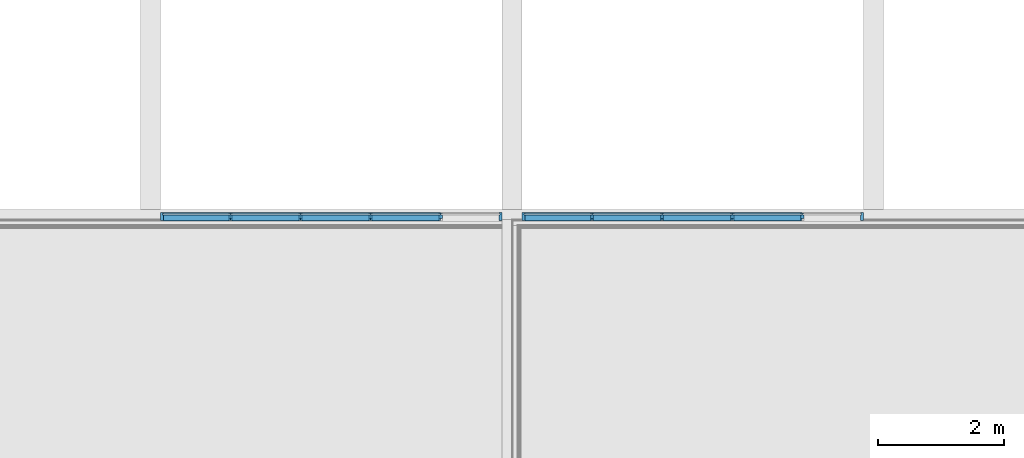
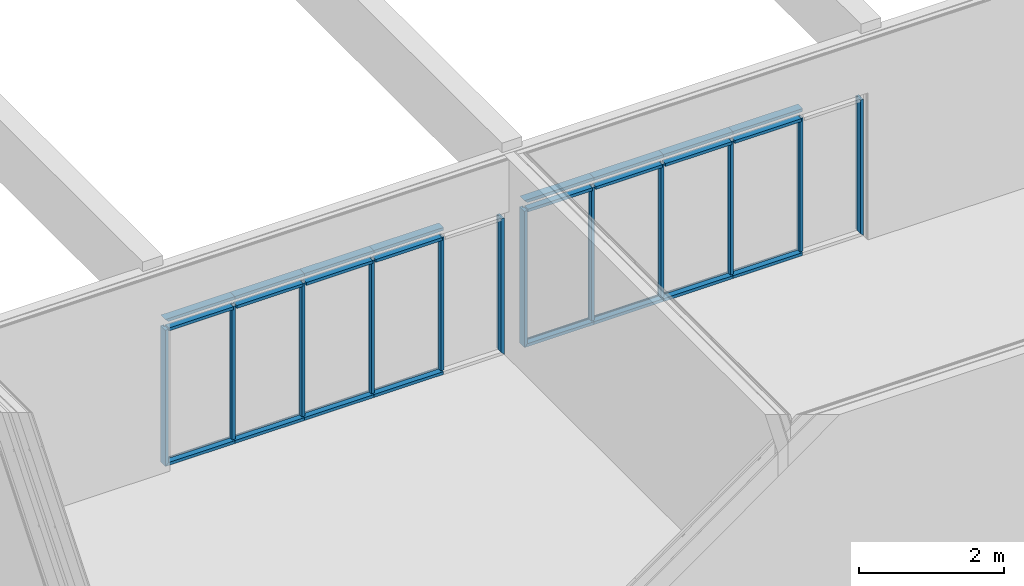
# One storey, part 12 of 139: 36 members, 2 elements without a shape of their own.
"""IFC2X3 building model written with IfcOpenShell, lengths in millimetres."""

from ifc_helpers import new_model, entity, si_unit, converted_unit, derived_unit, money_unit, direction, frame, origin_with_axes, place, context, subcontext, project, spatial, faceted_brep, source, transform, mapped, material, type_object, element, aggregate, save


model = new_model("IFC2X3")

# Units and contexts
model_context = context("Model", 3, precision=0.01, world=origin_with_axes(), true_north=direction((0.0, 1.0)))
body_context = subcontext(model_context, "Body", "Model", "MODEL_VIEW")
ifc_project = project(units=[si_unit("LENGTHUNIT", "METRE", prefix="MILLI"), si_unit("AREAUNIT", "SQUARE_METRE"), si_unit("VOLUMEUNIT", "CUBIC_METRE"), converted_unit("PLANEANGLEUNIT", "DEGREE", entity("IfcPlaneAngleMeasure", 0.0174532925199), si_unit("PLANEANGLEUNIT", "RADIAN"), dimensions=[0, 0, 0, 0, 0, 0, 0]), money_unit("EUR"), converted_unit("TIMEUNIT", "Year", entity("IfcTimeMeasure", 31556926.0), si_unit("TIMEUNIT", "SECOND"), dimensions=[0, 0, 1, 0, 0, 0, 0]), si_unit("MASSUNIT", "GRAM", prefix="KILO"), si_unit("THERMODYNAMICTEMPERATUREUNIT", "DEGREE_CELSIUS"), si_unit("LUMINOUSINTENSITYUNIT", "LUMEN"), si_unit("ENERGYUNIT", "JOULE", prefix="MEGA"), derived_unit("THERMALCONDUCTANCEUNIT", [(si_unit("POWERUNIT", "WATT"), 1), (si_unit("LENGTHUNIT", "METRE"), -1), (si_unit("THERMODYNAMICTEMPERATUREUNIT", "KELVIN"), -1)]), derived_unit("SPECIFICHEATCAPACITYUNIT", [(si_unit("ENERGYUNIT", "JOULE"), 1), (si_unit("MASSUNIT", "GRAM", prefix="KILO"), -1), (si_unit("THERMODYNAMICTEMPERATUREUNIT", "KELVIN"), -1)]), derived_unit("MASSDENSITYUNIT", [(si_unit("MASSUNIT", "GRAM", prefix="KILO"), 1), (si_unit("VOLUMEUNIT", "CUBIC_METRE"), -1)])], contexts=[model_context])

# Site, building, storey
site_placement = place(None, origin_with_axes())
site = spatial("IfcSite", under=ifc_project, at=site_placement, Name="Kolde pst 67a", CompositionType="ELEMENT")
building_placement = place(site_placement, origin_with_axes())
building = spatial("IfcBuilding", under=site, at=building_placement, Name="Riigigümnaasium", CompositionType="ELEMENT")
storey_placement = place(building_placement, frame((0.0, 0.0, 4600.0), z_axis=(0.0, 0.0, 1.0), x_axis=(1.0, 0.0, 0.0)))
storey = spatial("IfcBuildingStorey", under=building, at=storey_placement, Name="2. korrus", CompositionType="ELEMENT", Elevation=4600.0)

# Curtain wall, members
curtain_wall_type = type_object("IfcCurtainWallType", Name="Curtain Wall Type", PredefinedType="NOTDEFINED")
curtain_wall_1_placement = place(storey_placement, frame((16075.0009233, 67175.1339524, -0.000749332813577), z_axis=(0.0, 0.0, 1.0), x_axis=(1.0, 0.0, 0.0)))
curtain_wall_1 = element("IfcCurtainWall", 1, at=curtain_wall_1_placement, inside=storey, type_object=curtain_wall_type, Name="KLAASSEIN")
ifc_material_1 = material(Name="_METALL - alumiinium")
member_type_1 = type_object("IfcMemberType", Name="Boundary Frame 50 x 130", PredefinedType="MEMBER")
shared_shape_1 = source(origin_with_axes(), body_context, "Body", "Brep", [
    faceted_brep([(-30.0, -10.0, 1110.0), (-50.0, -10.0, 1110.0), (-50.0, -100.0, 1110.0), (0.0, -100.0, 1110.0), (0.0, 30.0, 1110.0), (-50.0, 30.0, 1110.0), (-50.0, 10.0, 1110.0), (-30.0, 10.0, 1110.0), (-30.0, -10.0, 0.0), (-50.0, -10.0, 0.0), (-50.0, -100.0, 0.0), (0.0, -100.0, 0.0), (0.0, 30.0, 0.0), (-50.0, 30.0, 0.0), (-50.0, 10.0, 0.0), (-30.0, 10.0, 0.0)], [[[0, 1, 2, 3, 4, 5, 6, 7]], [[0, 8, 9, 1]], [[9, 10, 2, 1]], [[10, 11, 3, 2]], [[11, 12, 4, 3]], [[12, 13, 5, 4]], [[6, 5, 13, 14]], [[14, 15, 7, 6]], [[7, 15, 8, 0]], [[8, 15, 14, 13, 12, 11, 10, 9]]]),
])
member_1_placement = place(curtain_wall_1_placement, frame((554.999999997, -0.0016739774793, 0.0), z_axis=(0.999999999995, -3.01617563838e-06, 0.0), x_axis=(0.0, 0.0, 1.0)))
member_1 = element("IfcMember", 2, at=member_1_placement, type_object=member_type_1, material=ifc_material_1, Name="RF RAAM SERV-069", ObjectType="MEMBER", context=body_context, shape_type="MappedRepresentation", body=[
    mapped(shared_shape_1, transform((0.0, 0.0, 0.0), x_axis=(-1.0, 0.0, 0.0), y_axis=(0.0, -1.0, 0.0), z_axis=(0.0, 0.0, 1.0))),
])
member_2_placement = place(curtain_wall_1_placement, frame((1664.99999999, -0.0050219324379, 0.0), z_axis=(0.999999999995, -3.01617565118e-06, 0.0), x_axis=(0.0, 0.0, 1.0)))
member_2 = element("IfcMember", 3, at=member_2_placement, type_object=member_type_1, material=ifc_material_1, Name="RF RAAM SERV-070", ObjectType="MEMBER", context=body_context, shape_type="MappedRepresentation", body=[
    mapped(shared_shape_1, transform((0.0, 0.0, 0.0), x_axis=(-1.0, 0.0, 0.0), y_axis=(0.0, -1.0, 0.0), z_axis=(0.0, 0.0, 1.0))),
])
member_3_placement = place(curtain_wall_1_placement, frame((2774.99999999, -0.00836988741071, 0.0), z_axis=(0.999999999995, -3.01617563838e-06, 0.0), x_axis=(0.0, 0.0, 1.0)))
member_3 = element("IfcMember", 4, at=member_3_placement, type_object=member_type_1, material=ifc_material_1, Name="RF RAAM SERV-071", ObjectType="MEMBER", context=body_context, shape_type="MappedRepresentation", body=[
    mapped(shared_shape_1, transform((0.0, 0.0, 0.0), x_axis=(-1.0, 0.0, 0.0), y_axis=(0.0, -1.0, 0.0), z_axis=(0.0, 0.0, 1.0))),
])
member_4_placement = place(curtain_wall_1_placement, frame((1664.99999999, -0.0050219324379, 2480.00001875), z_axis=(-0.999999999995, 3.01617563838e-06, 0.0), x_axis=(0.0, 0.0, -1.0)))
member_4 = element("IfcMember", 5, at=member_4_placement, type_object=member_type_1, material=ifc_material_1, Name="RF RAAM SERV-078", ObjectType="MEMBER", context=body_context, shape_type="MappedRepresentation", body=[
    mapped(shared_shape_1, transform((0.0, 0.0, 0.0), x_axis=(-1.0, 0.0, 0.0), y_axis=(0.0, -1.0, 0.0), z_axis=(0.0, 0.0, 1.0))),
])
member_5_placement = place(curtain_wall_1_placement, frame((2774.99999999, -0.00836988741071, 2480.00001875), z_axis=(-0.999999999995, 3.01617565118e-06, 0.0), x_axis=(0.0, 0.0, -1.0)))
member_5 = element("IfcMember", 6, at=member_5_placement, type_object=member_type_1, material=ifc_material_1, Name="RF RAAM SERV-077", ObjectType="MEMBER", context=body_context, shape_type="MappedRepresentation", body=[
    mapped(shared_shape_1, transform((0.0, 0.0, 0.0), x_axis=(-1.0, 0.0, 0.0), y_axis=(0.0, -1.0, 0.0), z_axis=(0.0, 0.0, 1.0))),
])
member_6_placement = place(curtain_wall_1_placement, frame((3884.99999998, -0.0117178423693, 2480.00001875), z_axis=(-0.999999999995, 3.01617563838e-06, 0.0), x_axis=(0.0, 0.0, -1.0)))
member_6 = element("IfcMember", 7, at=member_6_placement, type_object=member_type_1, material=ifc_material_1, Name="RF RAAM SERV-076", ObjectType="MEMBER", context=body_context, shape_type="MappedRepresentation", body=[
    mapped(shared_shape_1, transform((0.0, 0.0, 0.0), x_axis=(-1.0, 0.0, 0.0), y_axis=(0.0, -1.0, 0.0), z_axis=(0.0, 0.0, 1.0))),
])

curtain_wall_2_placement = place(storey_placement, frame((10344.9992917, 67175.1512351, -0.000749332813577), z_axis=(0.0, 0.0, 1.0), x_axis=(1.0, 0.0, 0.0)))
curtain_wall_2 = element("IfcCurtainWall", 8, at=curtain_wall_2_placement, inside=storey, type_object=curtain_wall_type, Name="KLAASSEIN")
member_7_placement = place(curtain_wall_2_placement, frame((554.999999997, -0.0016739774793, 0.0), z_axis=(0.999999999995, -3.01617563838e-06, 0.0), x_axis=(0.0, 0.0, 1.0)))
member_7 = element("IfcMember", 9, at=member_7_placement, type_object=member_type_1, material=ifc_material_1, Name="RF RAAM SERV-069", ObjectType="MEMBER", context=body_context, shape_type="MappedRepresentation", body=[
    mapped(shared_shape_1, transform((0.0, 0.0, 0.0), x_axis=(-1.0, 0.0, 0.0), y_axis=(0.0, -1.0, 0.0), z_axis=(0.0, 0.0, 1.0))),
])
member_8_placement = place(curtain_wall_2_placement, frame((1664.99999999, -0.0050219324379, 0.0), z_axis=(0.999999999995, -3.01617565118e-06, 0.0), x_axis=(0.0, 0.0, 1.0)))
member_8 = element("IfcMember", 10, at=member_8_placement, type_object=member_type_1, material=ifc_material_1, Name="RF RAAM SERV-070", ObjectType="MEMBER", context=body_context, shape_type="MappedRepresentation", body=[
    mapped(shared_shape_1, transform((0.0, 0.0, 0.0), x_axis=(-1.0, 0.0, 0.0), y_axis=(0.0, -1.0, 0.0), z_axis=(0.0, 0.0, 1.0))),
])
member_9_placement = place(curtain_wall_2_placement, frame((2774.99999999, -0.00836988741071, 0.0), z_axis=(0.999999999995, -3.01617563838e-06, 0.0), x_axis=(0.0, 0.0, 1.0)))
member_9 = element("IfcMember", 11, at=member_9_placement, type_object=member_type_1, material=ifc_material_1, Name="RF RAAM SERV-071", ObjectType="MEMBER", context=body_context, shape_type="MappedRepresentation", body=[
    mapped(shared_shape_1, transform((0.0, 0.0, 0.0), x_axis=(-1.0, 0.0, 0.0), y_axis=(0.0, -1.0, 0.0), z_axis=(0.0, 0.0, 1.0))),
])
member_10_placement = place(curtain_wall_2_placement, frame((2774.99999999, -0.00836988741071, 2480.00001875), z_axis=(-0.999999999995, 3.01617565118e-06, 0.0), x_axis=(0.0, 0.0, -1.0)))
member_10 = element("IfcMember", 12, at=member_10_placement, type_object=member_type_1, material=ifc_material_1, Name="RF RAAM SERV-077", ObjectType="MEMBER", context=body_context, shape_type="MappedRepresentation", body=[
    mapped(shared_shape_1, transform((0.0, 0.0, 0.0), x_axis=(-1.0, 0.0, 0.0), y_axis=(0.0, -1.0, 0.0), z_axis=(0.0, 0.0, 1.0))),
])
member_11_placement = place(curtain_wall_2_placement, frame((3884.99999998, -0.0117178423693, 2480.00001875), z_axis=(-0.999999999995, 3.01617563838e-06, 0.0), x_axis=(0.0, 0.0, -1.0)))
member_11 = element("IfcMember", 13, at=member_11_placement, type_object=member_type_1, material=ifc_material_1, Name="RF RAAM SERV-076", ObjectType="MEMBER", context=body_context, shape_type="MappedRepresentation", body=[
    mapped(shared_shape_1, transform((0.0, 0.0, 0.0), x_axis=(-1.0, 0.0, 0.0), y_axis=(0.0, -1.0, 0.0), z_axis=(0.0, 0.0, 1.0))),
])
member_12_placement = place(curtain_wall_2_placement, frame((1664.99999999, -0.0050219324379, 2480.00001875), z_axis=(-0.999999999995, 3.01617563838e-06, 0.0), x_axis=(0.0, 0.0, -1.0)))
member_12 = element("IfcMember", 14, at=member_12_placement, type_object=member_type_1, material=ifc_material_1, Name="RF RAAM SERV-078", ObjectType="MEMBER", context=body_context, shape_type="MappedRepresentation", body=[
    mapped(shared_shape_1, transform((0.0, 0.0, 0.0), x_axis=(-1.0, 0.0, 0.0), y_axis=(0.0, -1.0, 0.0), z_axis=(0.0, 0.0, 1.0))),
])

# Member
shared_shape_2 = source(origin_with_axes(), body_context, "Body", "Brep", [
    faceted_brep([(-30.0, -10.0, 1110.0), (-50.0, -10.0, 1110.0), (-50.0, -100.0, 1110.0), (0.0, -100.0, 1110.0), (0.0, 30.0, 1110.0), (-50.0, 30.0, 1110.0), (-50.0, 10.0, 1110.0), (-30.0, 10.0, 1110.0), (-30.0, -10.0, 30.0), (-50.0, -10.0, 50.0), (-50.0, -100.0, 50.0), (0.0, -100.0, 0.0), (0.0, 30.0, 0.0), (-50.0, 30.0, 50.0), (-50.0, 10.0, 50.0), (-30.0, 10.0, 30.0)], [[[0, 1, 2, 3, 4, 5, 6, 7]], [[0, 8, 9, 1]], [[9, 10, 2, 1]], [[2, 10, 11, 3]], [[3, 11, 12, 4]], [[4, 12, 13, 5]], [[6, 5, 13, 14]], [[14, 15, 7, 6]], [[7, 15, 8, 0]], [[8, 15, 14, 13, 12, 11, 10, 9]]]),
])
member_13_placement = place(curtain_wall_1_placement, frame((-554.999999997, 0.0016739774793, 0.0), z_axis=(0.999999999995, -3.01617563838e-06, 0.0), x_axis=(0.0, 0.0, 1.0)))
member_13 = element("IfcMember", 15, at=member_13_placement, type_object=member_type_1, material=ifc_material_1, Name="RF RAAM SERV-068", ObjectType="MEMBER", context=body_context, shape_type="MappedRepresentation", body=[
    mapped(shared_shape_2, transform((0.0, 0.0, 0.0), x_axis=(-1.0, 0.0, 0.0), y_axis=(0.0, -1.0, 0.0), z_axis=(0.0, 0.0, 1.0))),
])

member_14_placement = place(curtain_wall_2_placement, frame((-554.999999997, 0.0016739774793, 0.0), z_axis=(0.999999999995, -3.01617563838e-06, 0.0), x_axis=(0.0, 0.0, 1.0)))
member_14 = element("IfcMember", 16, at=member_14_placement, type_object=member_type_1, material=ifc_material_1, Name="RF RAAM SERV-068", ObjectType="MEMBER", context=body_context, shape_type="MappedRepresentation", body=[
    mapped(shared_shape_2, transform((0.0, 0.0, 0.0), x_axis=(-1.0, 0.0, 0.0), y_axis=(0.0, -1.0, 0.0), z_axis=(0.0, 0.0, 1.0))),
])

ifc_material_2 = material(Name="_GENEERILINE MATERJAL")
member_type_2 = type_object("IfcMemberType", Name="Transom Frame 50 x 100", PredefinedType="MEMBER")
shared_shape_3 = source(origin_with_axes(), body_context, "Body", "Brep", [
    faceted_brep([(-25.0, -10.0, 50.0), (-25.0, -110.0, 50.0), (-25.0, -110.0, 1085.0), (-25.0, -10.0, 1085.0), (25.0, -10.0, 50.0), (25.0, -110.0, 50.0), (25.0, -110.0, 1085.0), (25.0, -10.0, 1085.0)], [[[0, 1, 2, 3]], [[1, 0, 4, 5]], [[1, 5, 6, 2]], [[2, 6, 7, 3]], [[4, 0, 3, 7]], [[5, 4, 7, 6]]]),
])
member_15_placement = place(curtain_wall_1_placement, frame((-554.999999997, 0.0016739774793, 2300.0), z_axis=(0.999999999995, -3.01617563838e-06, 0.0), x_axis=(0.0, 0.0, 1.0)))
member_15 = element("IfcMember", 17, at=member_15_placement, type_object=member_type_2, material=ifc_material_2, Name="RF RAAM HOR-389", ObjectType="MEMBER", context=body_context, shape_type="MappedRepresentation", body=[
    mapped(shared_shape_3, transform((0.0, 0.0, 0.0), x_axis=(-1.0, 0.0, 0.0), y_axis=(0.0, -1.0, 0.0), z_axis=(0.0, 0.0, 1.0))),
])

member_16_placement = place(curtain_wall_2_placement, frame((-554.999999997, 0.0016739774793, 2300.0), z_axis=(0.999999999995, -3.01617563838e-06, 0.0), x_axis=(0.0, 0.0, 1.0)))
member_16 = element("IfcMember", 18, at=member_16_placement, type_object=member_type_2, material=ifc_material_2, Name="RF RAAM HOR-389", ObjectType="MEMBER", context=body_context, shape_type="MappedRepresentation", body=[
    mapped(shared_shape_3, transform((0.0, 0.0, 0.0), x_axis=(-1.0, 0.0, 0.0), y_axis=(0.0, -1.0, 0.0), z_axis=(0.0, 0.0, 1.0))),
])

shared_shape_4 = source(origin_with_axes(), body_context, "Body", "Brep", [
    faceted_brep([(30.0, -10.0, 2300.00012785), (30.0, 10.0, 2300.00012785), (50.0, 10.0, 2300.00012785), (50.0, 30.0, 2300.00012785), (0.0, 30.0, 2300.00012785), (0.0, -100.0, 2300.00012785), (50.0, -100.0, 2300.00012785), (50.0, -10.0, 2300.00012785), (30.0, -10.0, 30.0), (30.0, 10.0, 30.0), (50.0, 10.0, 50.0), (50.0, 30.0, 50.0), (0.0, 30.0, 0.0), (0.0, -100.0, 0.0), (50.0, -100.0, 50.0), (50.0, -10.0, 50.0)], [[[0, 1, 2, 3, 4, 5, 6, 7]], [[1, 0, 8, 9]], [[10, 2, 1, 9]], [[2, 10, 11, 3]], [[4, 3, 11, 12]], [[5, 4, 12, 13]], [[6, 5, 13, 14]], [[15, 7, 6, 14]], [[0, 7, 15, 8]], [[8, 15, 14, 13, 12, 11, 10, 9]]]),
])
member_17_placement = place(curtain_wall_1_placement, frame((-554.999999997, 0.0016739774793, 0.0), z_axis=(0.0, 0.0, 1.0), x_axis=(-0.999999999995, 3.01617563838e-06, 0.0)))
member_17 = element("IfcMember", 19, at=member_17_placement, type_object=member_type_1, material=ifc_material_1, Name="RF RAAM SERV-081", ObjectType="MEMBER", context=body_context, shape_type="MappedRepresentation", body=[
    mapped(shared_shape_4, transform((0.0, 0.0, 0.0), x_axis=(-1.0, 0.0, 0.0), y_axis=(0.0, -1.0, 0.0), z_axis=(0.0, 0.0, 1.0))),
])

member_18_placement = place(curtain_wall_2_placement, frame((-554.999999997, 0.0016739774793, 0.0), z_axis=(0.0, 0.0, 1.0), x_axis=(-0.999999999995, 3.01617563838e-06, 0.0)))
member_18 = element("IfcMember", 20, at=member_18_placement, type_object=member_type_1, material=ifc_material_1, Name="RF RAAM SERV-081", ObjectType="MEMBER", context=body_context, shape_type="MappedRepresentation", body=[
    mapped(shared_shape_4, transform((0.0, 0.0, 0.0), x_axis=(-1.0, 0.0, 0.0), y_axis=(0.0, -1.0, 0.0), z_axis=(0.0, 0.0, 1.0))),
])

shared_shape_5 = source(origin_with_axes(), body_context, "Body", "Brep", [
    faceted_brep([(-25.0, -10.0, 25.0), (-25.0, -110.0, 25.0), (-25.0, -110.0, 1085.0), (-25.0, -10.0, 1085.0), (25.0, -10.0, 25.0), (25.0, -110.0, 25.0), (25.0, -110.0, 1085.0), (25.0, -10.0, 1085.0)], [[[0, 1, 2, 3]], [[1, 0, 4, 5]], [[1, 5, 6, 2]], [[2, 6, 7, 3]], [[4, 0, 3, 7]], [[5, 4, 7, 6]]]),
])
member_19_placement = place(curtain_wall_1_placement, frame((554.999999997, -0.0016739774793, 2300.0), z_axis=(0.999999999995, -3.01617563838e-06, 0.0), x_axis=(0.0, 0.0, 1.0)))
member_19 = element("IfcMember", 21, at=member_19_placement, type_object=member_type_2, material=ifc_material_2, Name="RF RAAM HOR-388", ObjectType="MEMBER", context=body_context, shape_type="MappedRepresentation", body=[
    mapped(shared_shape_5, transform((0.0, 0.0, 0.0), x_axis=(-1.0, 0.0, 0.0), y_axis=(0.0, -1.0, 0.0), z_axis=(0.0, 0.0, 1.0))),
])

member_20_placement = place(curtain_wall_1_placement, frame((1664.99999999, -0.0050219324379, 2300.0), z_axis=(0.999999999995, -3.01617565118e-06, 0.0), x_axis=(0.0, 0.0, 1.0)))
member_20 = element("IfcMember", 22, at=member_20_placement, type_object=member_type_2, material=ifc_material_2, Name="RF RAAM HOR-387", ObjectType="MEMBER", context=body_context, shape_type="MappedRepresentation", body=[
    mapped(shared_shape_5, transform((0.0, 0.0, 0.0), x_axis=(-1.0, 0.0, 0.0), y_axis=(0.0, -1.0, 0.0), z_axis=(0.0, 0.0, 1.0))),
])

member_21_placement = place(curtain_wall_1_placement, frame((2774.99999999, -0.00836988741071, 2300.0), z_axis=(0.999999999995, -3.01617563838e-06, 0.0), x_axis=(0.0, 0.0, 1.0)))
member_21 = element("IfcMember", 23, at=member_21_placement, type_object=member_type_2, material=ifc_material_2, Name="RF RAAM HOR-386", ObjectType="MEMBER", context=body_context, shape_type="MappedRepresentation", body=[
    mapped(shared_shape_5, transform((0.0, 0.0, 0.0), x_axis=(-1.0, 0.0, 0.0), y_axis=(0.0, -1.0, 0.0), z_axis=(0.0, 0.0, 1.0))),
])

member_22_placement = place(curtain_wall_2_placement, frame((554.999999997, -0.0016739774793, 2300.0), z_axis=(0.999999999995, -3.01617563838e-06, 0.0), x_axis=(0.0, 0.0, 1.0)))
member_22 = element("IfcMember", 24, at=member_22_placement, type_object=member_type_2, material=ifc_material_2, Name="RF RAAM HOR-388", ObjectType="MEMBER", context=body_context, shape_type="MappedRepresentation", body=[
    mapped(shared_shape_5, transform((0.0, 0.0, 0.0), x_axis=(-1.0, 0.0, 0.0), y_axis=(0.0, -1.0, 0.0), z_axis=(0.0, 0.0, 1.0))),
])

member_23_placement = place(curtain_wall_2_placement, frame((1664.99999999, -0.0050219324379, 2300.0), z_axis=(0.999999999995, -3.01617565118e-06, 0.0), x_axis=(0.0, 0.0, 1.0)))
member_23 = element("IfcMember", 25, at=member_23_placement, type_object=member_type_2, material=ifc_material_2, Name="RF RAAM HOR-387", ObjectType="MEMBER", context=body_context, shape_type="MappedRepresentation", body=[
    mapped(shared_shape_5, transform((0.0, 0.0, 0.0), x_axis=(-1.0, 0.0, 0.0), y_axis=(0.0, -1.0, 0.0), z_axis=(0.0, 0.0, 1.0))),
])

member_24_placement = place(curtain_wall_2_placement, frame((2774.99999999, -0.00836988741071, 2300.0), z_axis=(0.999999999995, -3.01617563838e-06, 0.0), x_axis=(0.0, 0.0, 1.0)))
member_24 = element("IfcMember", 26, at=member_24_placement, type_object=member_type_2, material=ifc_material_2, Name="RF RAAM HOR-386", ObjectType="MEMBER", context=body_context, shape_type="MappedRepresentation", body=[
    mapped(shared_shape_5, transform((0.0, 0.0, 0.0), x_axis=(-1.0, 0.0, 0.0), y_axis=(0.0, -1.0, 0.0), z_axis=(0.0, 0.0, 1.0))),
])

member_type_3 = type_object("IfcMemberType", Name="Mullion Frame 50 x 90", PredefinedType="MEMBER")
shared_shape_6 = source(origin_with_axes(), body_context, "Body", "Brep", [
    faceted_brep([(5.0, -10.0, 2300.00012785), (5.0, 10.0, 2300.00012785), (25.0, 10.0, 2300.00012785), (25.0, 20.0, 2300.00012785), (-25.0, 20.0, 2300.00012785), (-25.0, 10.0, 2300.00012785), (-5.0, 10.0, 2300.00012785), (-5.0, -10.0, 2300.00012785), (-25.0, -10.0, 2300.00012785), (-25.0, -70.0, 2300.00012785), (25.0, -70.0, 2300.00012785), (25.0, -10.0, 2300.00012785), (5.0, -10.0, 50.0), (5.0, 10.0, 50.0), (25.0, 10.0, 50.0), (25.0, 20.0, 50.0), (-25.0, 20.0, 50.0), (-25.0, 10.0, 50.0), (-5.0, 10.0, 50.0), (-5.0, -10.0, 50.0), (-25.0, -10.0, 50.0), (-25.0, -70.0, 50.0), (25.0, -70.0, 50.0), (25.0, -10.0, 50.0)], [[[0, 1, 2, 3, 4, 5, 6, 7, 8, 9, 10, 11]], [[0, 12, 13, 1]], [[1, 13, 14, 2]], [[14, 15, 3, 2]], [[4, 3, 15, 16]], [[17, 5, 4, 16]], [[5, 17, 18, 6]], [[7, 6, 18, 19]], [[8, 7, 19, 20]], [[8, 20, 21, 9]], [[10, 9, 21, 22]], [[11, 10, 22, 23]], [[11, 23, 12, 0]], [[13, 12, 23, 22, 21, 20, 19, 18, 17, 16, 15, 14]]]),
])
member_25_placement = place(curtain_wall_1_placement, frame((554.999999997, -0.0016739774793, 0.0), z_axis=(0.0, 0.0, 1.0), x_axis=(-0.999999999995, 3.01617563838e-06, 0.0)))
member_25 = element("IfcMember", 27, at=member_25_placement, type_object=member_type_3, material=ifc_material_1, Name="RF RAAM VERT-321", ObjectType="MEMBER", context=body_context, shape_type="MappedRepresentation", body=[
    mapped(shared_shape_6, transform((0.0, 0.0, 0.0), x_axis=(-1.0, 0.0, 0.0), y_axis=(0.0, -1.0, 0.0), z_axis=(0.0, 0.0, 1.0))),
])

member_26_placement = place(curtain_wall_1_placement, frame((1664.99999999, -0.0050219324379, 0.0), z_axis=(0.0, 0.0, 1.0), x_axis=(-0.999999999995, 3.01617564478e-06, 0.0)))
member_26 = element("IfcMember", 28, at=member_26_placement, type_object=member_type_3, material=ifc_material_1, Name="RF RAAM VERT-322", ObjectType="MEMBER", context=body_context, shape_type="MappedRepresentation", body=[
    mapped(shared_shape_6, transform((0.0, 0.0, 0.0), x_axis=(-1.0, 0.0, 0.0), y_axis=(0.0, -1.0, 0.0), z_axis=(0.0, 0.0, 1.0))),
])

member_27_placement = place(curtain_wall_1_placement, frame((2774.99999999, -0.00836988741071, 0.0), z_axis=(0.0, 0.0, 1.0), x_axis=(-0.999999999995, 3.01617564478e-06, 0.0)))
member_27 = element("IfcMember", 29, at=member_27_placement, type_object=member_type_3, material=ifc_material_1, Name="RF RAAM VERT-323", ObjectType="MEMBER", context=body_context, shape_type="MappedRepresentation", body=[
    mapped(shared_shape_6, transform((0.0, 0.0, 0.0), x_axis=(-1.0, 0.0, 0.0), y_axis=(0.0, -1.0, 0.0), z_axis=(0.0, 0.0, 1.0))),
])

member_28_placement = place(curtain_wall_1_placement, frame((3884.99999998, -0.0117178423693, 0.0), z_axis=(0.0, 0.0, 1.0), x_axis=(-0.999999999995, 3.01617563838e-06, 0.0)))
member_28 = element("IfcMember", 30, at=member_28_placement, type_object=member_type_3, material=ifc_material_1, Name="RF RAAM VERT-324", ObjectType="MEMBER", context=body_context, shape_type="MappedRepresentation", body=[
    mapped(shared_shape_6, transform((0.0, 0.0, 0.0), x_axis=(-1.0, 0.0, 0.0), y_axis=(0.0, -1.0, 0.0), z_axis=(0.0, 0.0, 1.0))),
])

member_29_placement = place(curtain_wall_2_placement, frame((554.999999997, -0.0016739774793, 0.0), z_axis=(0.0, 0.0, 1.0), x_axis=(-0.999999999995, 3.01617563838e-06, 0.0)))
member_29 = element("IfcMember", 31, at=member_29_placement, type_object=member_type_3, material=ifc_material_1, Name="RF RAAM VERT-321", ObjectType="MEMBER", context=body_context, shape_type="MappedRepresentation", body=[
    mapped(shared_shape_6, transform((0.0, 0.0, 0.0), x_axis=(-1.0, 0.0, 0.0), y_axis=(0.0, -1.0, 0.0), z_axis=(0.0, 0.0, 1.0))),
])

member_30_placement = place(curtain_wall_2_placement, frame((1664.99999999, -0.0050219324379, 0.0), z_axis=(0.0, 0.0, 1.0), x_axis=(-0.999999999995, 3.01617564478e-06, 0.0)))
member_30 = element("IfcMember", 32, at=member_30_placement, type_object=member_type_3, material=ifc_material_1, Name="RF RAAM VERT-322", ObjectType="MEMBER", context=body_context, shape_type="MappedRepresentation", body=[
    mapped(shared_shape_6, transform((0.0, 0.0, 0.0), x_axis=(-1.0, 0.0, 0.0), y_axis=(0.0, -1.0, 0.0), z_axis=(0.0, 0.0, 1.0))),
])

member_31_placement = place(curtain_wall_2_placement, frame((2774.99999999, -0.00836988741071, 0.0), z_axis=(0.0, 0.0, 1.0), x_axis=(-0.999999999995, 3.01617564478e-06, 0.0)))
member_31 = element("IfcMember", 33, at=member_31_placement, type_object=member_type_3, material=ifc_material_1, Name="RF RAAM VERT-323", ObjectType="MEMBER", context=body_context, shape_type="MappedRepresentation", body=[
    mapped(shared_shape_6, transform((0.0, 0.0, 0.0), x_axis=(-1.0, 0.0, 0.0), y_axis=(0.0, -1.0, 0.0), z_axis=(0.0, 0.0, 1.0))),
])

member_32_placement = place(curtain_wall_2_placement, frame((3884.99999998, -0.0117178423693, 0.0), z_axis=(0.0, 0.0, 1.0), x_axis=(-0.999999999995, 3.01617563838e-06, 0.0)))
member_32 = element("IfcMember", 34, at=member_32_placement, type_object=member_type_3, material=ifc_material_1, Name="RF RAAM VERT-324", ObjectType="MEMBER", context=body_context, shape_type="MappedRepresentation", body=[
    mapped(shared_shape_6, transform((0.0, 0.0, 0.0), x_axis=(-1.0, 0.0, 0.0), y_axis=(0.0, -1.0, 0.0), z_axis=(0.0, 0.0, 1.0))),
])

shared_shape_7 = source(origin_with_axes(), body_context, "Body", "Brep", [
    faceted_brep([(-30.0, -10.0, 2300.00012785), (-50.0, -10.0, 2300.00012785), (-50.0, -100.0, 2300.00012785), (0.0, -100.0, 2300.00012785), (0.0, 30.0, 2300.00012785), (-50.0, 30.0, 2300.00012785), (-50.0, 10.0, 2300.00012785), (-30.0, 10.0, 2300.00012785), (-30.0, -10.0, 30.0), (-50.0, -10.0, 50.0), (-50.0, -100.0, 50.0), (0.0, -100.0, 0.0), (0.0, 30.0, 0.0), (-50.0, 30.0, 50.0), (-50.0, 10.0, 50.0), (-30.0, 10.0, 30.0)], [[[0, 1, 2, 3, 4, 5, 6, 7]], [[0, 8, 9, 1]], [[9, 10, 2, 1]], [[2, 10, 11, 3]], [[3, 11, 12, 4]], [[4, 12, 13, 5]], [[6, 5, 13, 14]], [[14, 15, 7, 6]], [[7, 15, 8, 0]], [[8, 15, 14, 13, 12, 11, 10, 9]]]),
])
member_33_placement = place(curtain_wall_1_placement, frame((4854.99996645, -0.0146435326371, 0.0), z_axis=(0.0, 0.0, 1.0), x_axis=(-0.999999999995, 3.01617563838e-06, 0.0)))
member_33 = element("IfcMember", 35, at=member_33_placement, type_object=member_type_1, material=ifc_material_1, Name="RF RAAM SERV-073", ObjectType="MEMBER", context=body_context, shape_type="MappedRepresentation", body=[
    mapped(shared_shape_7, transform((0.0, 0.0, 0.0), x_axis=(-1.0, 0.0, 0.0), y_axis=(0.0, -1.0, 0.0), z_axis=(0.0, 0.0, 1.0))),
])

member_34_placement = place(curtain_wall_2_placement, frame((4854.99996645, -0.0146435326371, 0.0), z_axis=(0.0, 0.0, 1.0), x_axis=(-0.999999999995, 3.01617563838e-06, 0.0)))
member_34 = element("IfcMember", 36, at=member_34_placement, type_object=member_type_1, material=ifc_material_1, Name="RF RAAM SERV-073", ObjectType="MEMBER", context=body_context, shape_type="MappedRepresentation", body=[
    mapped(shared_shape_7, transform((0.0, 0.0, 0.0), x_axis=(-1.0, 0.0, 0.0), y_axis=(0.0, -1.0, 0.0), z_axis=(0.0, 0.0, 1.0))),
])

shared_shape_8 = source(origin_with_axes(), body_context, "Body", "Brep", [
    faceted_brep([(-30.0, -10.0, 1080.0), (-50.0, -10.0, 1060.0), (-50.0, -100.0, 1060.0), (0.0, -100.0, 1110.0), (0.0, 30.0, 1110.0), (-50.0, 30.0, 1060.0), (-50.0, 10.0, 1060.0), (-30.0, 10.0, 1080.0), (-30.0, -10.0, 0.0), (-50.0, -10.0, 0.0), (-50.0, -100.0, 0.0), (0.0, -100.0, 0.0), (0.0, 30.0, 0.0), (-50.0, 30.0, 0.0), (-50.0, 10.0, 0.0), (-30.0, 10.0, 0.0)], [[[0, 1, 2, 3, 4, 5, 6, 7]], [[0, 8, 9, 1]], [[9, 10, 2, 1]], [[10, 11, 3, 2]], [[11, 12, 4, 3]], [[12, 13, 5, 4]], [[6, 5, 13, 14]], [[14, 15, 7, 6]], [[7, 15, 8, 0]], [[8, 15, 14, 13, 12, 11, 10, 9]]]),
])
member_35_placement = place(curtain_wall_1_placement, frame((554.999999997, -0.0016739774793, 2480.00001875), z_axis=(-0.999999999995, 3.01617563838e-06, 0.0), x_axis=(0.0, 0.0, -1.0)))
member_35 = element("IfcMember", 37, at=member_35_placement, type_object=member_type_1, material=ifc_material_1, Name="RF RAAM SERV-079", ObjectType="MEMBER", context=body_context, shape_type="MappedRepresentation", body=[
    mapped(shared_shape_8, transform((0.0, 0.0, 0.0), x_axis=(-1.0, 0.0, 0.0), y_axis=(0.0, -1.0, 0.0), z_axis=(0.0, 0.0, 1.0))),
])

aggregate(curtain_wall_1, [member_13, member_15, member_17, member_1, member_19, member_25, member_2, member_20, member_26, member_3, member_21, member_27, member_28, member_33, member_35, member_4, member_5, member_6])

member_36_placement = place(curtain_wall_2_placement, frame((554.999999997, -0.0016739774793, 2480.00001875), z_axis=(-0.999999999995, 3.01617563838e-06, 0.0), x_axis=(0.0, 0.0, -1.0)))
member_36 = element("IfcMember", 38, at=member_36_placement, type_object=member_type_1, material=ifc_material_1, Name="RF RAAM SERV-079", ObjectType="MEMBER", context=body_context, shape_type="MappedRepresentation", body=[
    mapped(shared_shape_8, transform((0.0, 0.0, 0.0), x_axis=(-1.0, 0.0, 0.0), y_axis=(0.0, -1.0, 0.0), z_axis=(0.0, 0.0, 1.0))),
])

aggregate(curtain_wall_2, [member_14, member_16, member_18, member_7, member_22, member_29, member_8, member_23, member_30, member_9, member_24, member_31, member_34, member_32, member_10, member_11, member_36, member_12])

save(model, "model.ifc")
